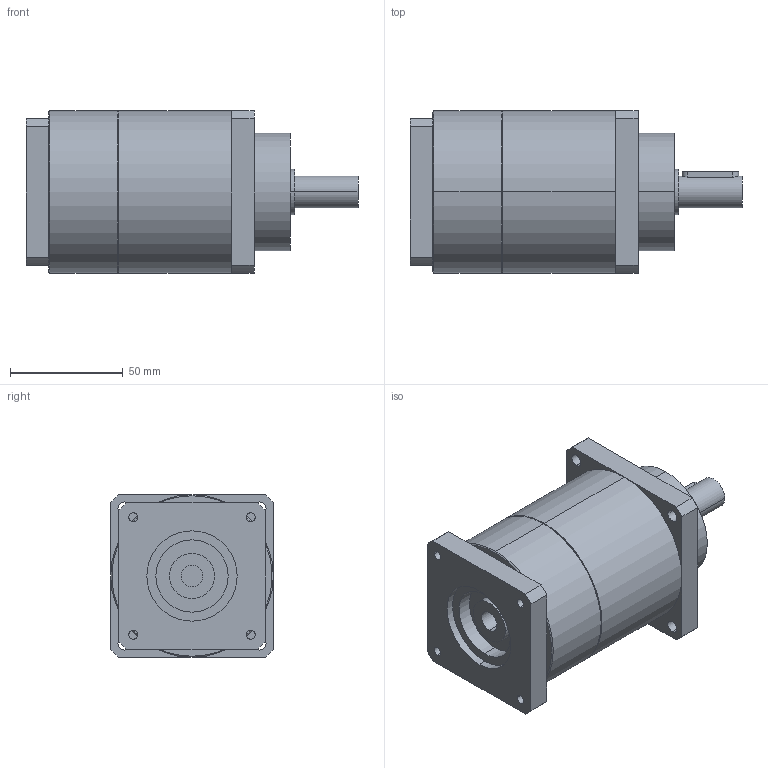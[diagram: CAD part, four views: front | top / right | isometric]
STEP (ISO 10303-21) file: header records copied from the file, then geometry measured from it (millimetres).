
FILE_DESCRIPTION(('CoCreate Modeling STEP Export'),'2;1');
FILE_NAME('GPT75_ig-9-12-16-20-25-28-35-40-50-70-100_14_B5T_9.52_P34.stp','2014-08-27T13:43:30',(''),(''),'CoCreate Modeling STEP processor for AP214 (Solid Model)','CoCreate Modeling 16.00C 25-Feb-2009 (C) Parametric Technology GmbH','');
FILE_SCHEMA(('AUTOMOTIVE_DESIGN { 1 0 10303 214 1 1 1 1 }'));
Length unit declared in the file: millimetre
Products named in the file (2): GPT75_ig-9-12-16-20-25-28-35-40-50-70-100_14_B5T_9.52_P34
Assembly tree (1 placements, depth 2):
  GPT75_ig-9-12-16-20-25-28-35-40-50-70-100_14_B5T_9.52_P34
    GPT75_ig-9-12-16-20-25-28-35-40-50-70-100_14_B5T_9.52_P34
Bounding box: 147 x 72 x 72 mm (x, y, z)
Volume: 450023.7 mm3; surface area: 42467.4 mm2
Topology: 1 solids, 1 shells, 88 faces, 226 edges, 145 vertices
Faces by surface type: cylinder 46, plane 38, cone 4
Entity records: 2676 total; most frequent: CARTESIAN_POINT 744, ORIENTED_EDGE 452, DIRECTION 334, EDGE_CURVE 226, VERTEX_POINT 145, AXIS2_PLACEMENT_3D 123, EDGE_LOOP 109, VECTOR 88
